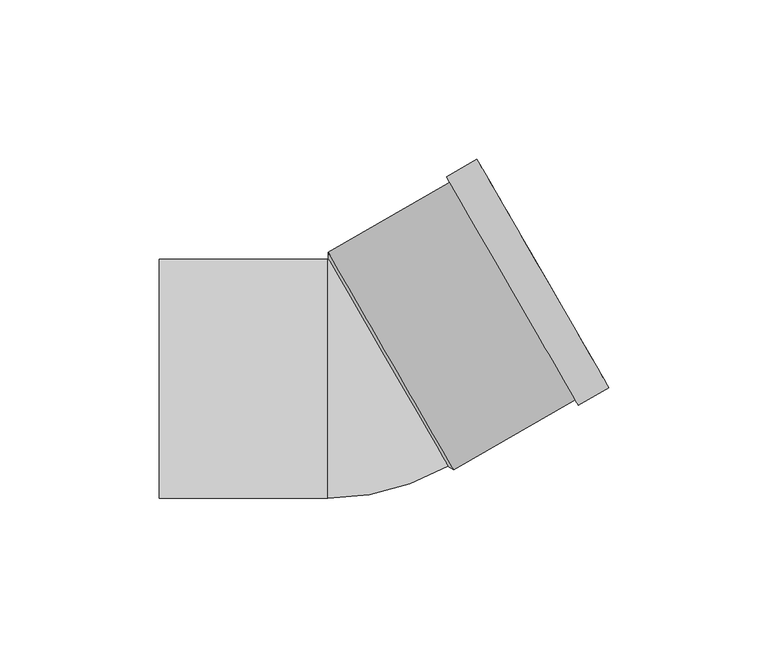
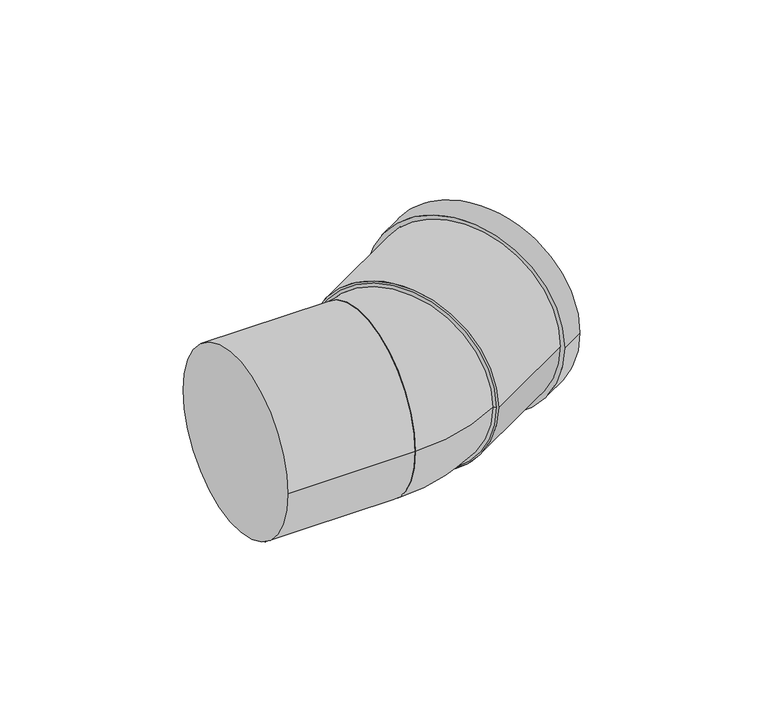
"""IFC4 building model written with IfcOpenShell, lengths in millimetres: pipe fitting geometry, Superdrain HT bend : Superdrain HT Bend."""

from ifc_helpers import new_model, si_unit, point, frame, origin, origin_2d, place, context, project, spatial, polyline, circle_curve, ellipse_curve, trimmed, segment, composite_curve, outline, extrude, source, transform, mapped, element, save
from ifc_brep_helpers import plane_surface, revolved_surface, advanced_brep


def pipe_fitting_4040f774(model_context):
    return source(origin(), model_context, "Body", "SolidModel", [
        advanced_brep(
        [(27.5834591, -27.3759526, 0.0), (-9.9165409, 37.5759526, 0.0), (-10.2, -37.5, 0.0), (-10.2, 37.5, 0.0)],
        [
            (0, 1, circle_curve(frame((8.8334591, 5.1, 0.0), z_axis=(0.866025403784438, 0.5000000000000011, 0.0), x_axis=(-0.5000000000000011, 0.866025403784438, 0.0)), 37.5)),
            (1, 0, circle_curve(frame((8.8334591, 5.1, 0.0), z_axis=(0.8660254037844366, 0.5000000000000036, 0.0), x_axis=(-0.5000000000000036, 0.8660254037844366, 0.0)), 37.5)),
            (2, 3, circle_curve(frame((-10.2, 0.0, 0.0), z_axis=(-1.0, 0.0, 0.0), x_axis=(0.0, 1.0, 0.0)), 37.5)),
            (3, 2, circle_curve(frame((-10.2, 0.0, 0.0), z_axis=(-1.0, 0.0, 0.0), x_axis=(0.0, 1.0, 0.0)), 37.5)),
            (3, 1, circle_curve(frame((-10.2, 38.0669182, 0.0), z_axis=(0.0, 0.0, 1.0), x_axis=(1.0, 0.0, 0.0)), 0.5669182)),
            (0, 2, circle_curve(frame((-10.2, 38.0669182, 0.0), z_axis=(0.0, 0.0, -1.0), x_axis=(1.0, 0.0, 0.0)), 75.5669182)),
        ],
        [
            plane_surface(frame((8.8334591, 5.1, 0.0), z_axis=(0.866025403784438, 0.5000000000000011, 0.0), x_axis=(0.0, 0.0, -1.0))),
            plane_surface(frame((-10.2, 0.0, 0.0), z_axis=(-1.0, 0.0, 0.0), x_axis=(0.0, 0.0, -1.0))),
            revolved_surface(trimmed(ellipse_curve(frame((27.8669182, 38.0669182, 0.0), z_axis=(0.0, -1.0, 0.0), x_axis=(-1.0, 0.0, 0.0)), 37.5, 37.5), [point((-9.6330818, 38.0669182, 0.0))], [point((65.3669182, 38.0669182, 0.0))], True, "CARTESIAN"), (-10.2, 38.0669182, 0.0), (0.0, 0.0, 1.0)),
            revolved_surface(trimmed(ellipse_curve(frame((27.8669182, 38.0669182, 0.0), z_axis=(0.0, -1.0, 0.0), x_axis=(-1.0, 0.0, 0.0)), 37.5, 37.5), [point((65.3669182, 38.0669182, 0.0))], [point((-9.6330818, 38.0669182, 0.0))], True, "CARTESIAN"), (-10.2, 38.0669182, 0.0), (0.0, 0.0, 1.0)),
        ],
        [
            (0, [[1, 2]]),
            (1, [[3, 4]]),
            (2, [[-4, 5, -1, 6]]),
            (3, [[-3, -6, -2, -5]]),
        ],
    ),
        extrude(outline(composite_curve([segment(trimmed(circle_curve(origin_2d(), 39.375), [point((0.0, 39.375))], [point((0.0, -39.375))], False, "CARTESIAN"), True, "CONTINUOUS"), segment(trimmed(circle_curve(origin_2d(), 39.375), [point((0.0, -39.375))], [point((0.0, 39.375))], False, "CARTESIAN"), True, "CONTINUOUS")], self_intersect=False), holes=[composite_curve([segment(trimmed(circle_curve(origin_2d(), 37.5), [point((0.0, 37.5))], [point((0.0, -37.5))], True, "CARTESIAN"), True, "CONTINUOUS"), segment(trimmed(circle_curve(origin_2d(), 37.5), [point((0.0, -37.5))], [point((0.0, 37.5))], True, "CARTESIAN"), True, "CONTINUOUS")], self_intersect=False)]), frame((9.6994845, 5.6, 0.0), z_axis=(0.8660254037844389, 0.49999999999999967, 0.0), x_axis=(0.0, 0.0, 1.0)), (0.0, 0.0, 1.0), 55.0),
        extrude(outline(composite_curve([segment(trimmed(circle_curve(origin_2d(), 41.34375), [point((0.0, -41.34375))], [point((0.0, 41.34375))], False, "CARTESIAN"), True, "CONTINUOUS"), segment(trimmed(circle_curve(origin_2d(), 41.34375), [point((0.0, 41.34375))], [point((0.0, -41.34375))], False, "CARTESIAN"), True, "CONTINUOUS")], self_intersect=False), holes=[composite_curve([segment(trimmed(circle_curve(origin_2d(), 37.5), [point((0.0, -37.5))], [point((0.0, 37.5))], True, "CARTESIAN"), True, "CONTINUOUS"), segment(trimmed(circle_curve(origin_2d(), 37.5), [point((0.0, 37.5))], [point((0.0, -37.5))], True, "CARTESIAN"), True, "CONTINUOUS")], self_intersect=False)]), frame((47.8046023, 27.6, 0.0), z_axis=(0.8660254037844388, 0.4999999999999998, 0.0), x_axis=(0.0, 0.0, 1.0)), (0.0, 0.0, 1.0), 11.0),
        advanced_brep(
        [(29.3869845, -28.4997503, 0.0), (-9.9880155, 39.6997503, 0.0), (27.5834591, -27.3759526, 0.0), (-9.9165409, 37.5759526, 0.0)],
        [
            (0, 1, circle_curve(frame((9.6994845, 5.6, 0.0), z_axis=(0.8660254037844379, 0.5000000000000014, 0.0), x_axis=(0.5000000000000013, -0.8660254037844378, 0.0)), 39.375)),
            (1, 0, circle_curve(frame((9.6994845, 5.6, 0.0), z_axis=(0.8660254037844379, 0.5000000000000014, 0.0), x_axis=(-0.5000000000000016, 0.8660254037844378, 0.0)), 39.375)),
            (2, 3, circle_curve(frame((8.8334591, 5.1, 0.0), z_axis=(-0.8660254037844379, -0.5000000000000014, 0.0), x_axis=(-0.5000000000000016, 0.8660254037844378, 0.0)), 37.5)),
            (3, 2, circle_curve(frame((8.8334591, 5.1, 0.0), z_axis=(-0.8660254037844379, -0.5000000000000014, 0.0), x_axis=(0.5000000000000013, -0.8660254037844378, 0.0)), 37.5)),
            (3, 1),
            (0, 2),
        ],
        [
            plane_surface(frame((9.6994845, 5.6, 0.0), z_axis=(0.8660254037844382, 0.5000000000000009, 0.0), x_axis=(0.0, 0.0, -1.0))),
            plane_surface(frame((8.8334591, 5.1, 0.0), z_axis=(-0.8660254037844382, -0.5000000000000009, 0.0), x_axis=(0.0, 0.0, -1.0))),
            revolved_surface(polyline([(-9.916540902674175, 37.5759526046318, 0.0), (-9.9880155, 39.6997503, 0.0)]), (-8.487049, -4.9, 0.0), (0.8660254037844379, 0.5000000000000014, 0.0)),
            revolved_surface(polyline([(27.583459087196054, -27.375952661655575, 0.0), (29.386984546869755, -28.499750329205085, 0.0)]), (-8.487049, -4.9, 0.0), (0.8660254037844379, 0.5000000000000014, 0.0)),
        ],
        [
            (0, [[1, 2]]),
            (1, [[3, 4]]),
            (2, [[-4, 5, -1, 6]]),
            (3, [[-3, -6, -2, -5]]),
        ],
    ),
        extrude(outline(composite_curve([segment(trimmed(circle_curve(origin_2d(), 37.5), [point((-37.5, 0.0))], [point((37.5, 0.0))], False, "CARTESIAN"), True, "CONTINUOUS"), segment(trimmed(circle_curve(origin_2d(), 37.5), [point((37.5, 0.0))], [point((-37.5, 0.0))], False, "CARTESIAN"), True, "CONTINUOUS")], self_intersect=False)), frame((-63.0, 0.0, 0.0), z_axis=(1.0, 0.0, 0.0), x_axis=(0.0, 1.0, 0.0)), (0.0, 0.0, 1.0), 52.8),
    ])


if __name__ == "__main__":
    model = new_model("IFC4")
    model_context = context("Model", 3, world=origin())
    ifc_project = project(units=[si_unit("LENGTHUNIT", "METRE", prefix="MILLI")], contexts=[model_context])
    site = spatial("IfcSite", under=ifc_project)
    building = spatial("IfcBuilding", under=site)
    placement = place(None, origin())
    pipe_fitting_shape = pipe_fitting_4040f774(model_context)
    element("IfcPipeFitting", 1, ObjectType="Superdrain HT bend : Superdrain HT Bend", at=placement, inside=building, context=model_context, shape_type="MappedRepresentation", body=[
        mapped(pipe_fitting_shape, transform((0.0, 0.0, 0.0), x_axis=(1.0, 0.0, 0.0), y_axis=(0.0, 1.0, 0.0), z_axis=(0.0, 0.0, 1.0))),
    ])
    save(model, "model.ifc")
